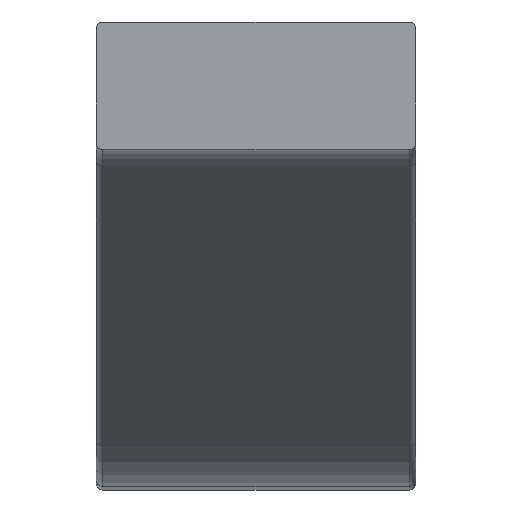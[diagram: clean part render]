
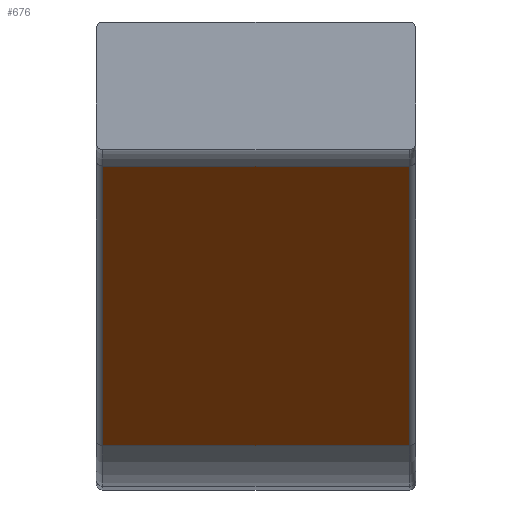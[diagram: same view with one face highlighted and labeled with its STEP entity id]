
A CAD part, left-side view. The second image highlights one B-rep face of the part: STEP entity #676.
In plain terms, the highlighted planar face has unit normal (-0.589, 0, -0.808).
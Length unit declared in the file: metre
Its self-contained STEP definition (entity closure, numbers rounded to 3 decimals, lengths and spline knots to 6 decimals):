
#16=PLANE('',#1031);
#36=LINE('',#1288,#80);
#54=LINE('',#1374,#98);
#71=LINE('',#1436,#115);
#73=LINE('',#1440,#117);
#80=VECTOR('',#1064,1.);
#98=VECTOR('',#1162,1.);
#115=VECTOR('',#1237,1.);
#117=VECTOR('',#1243,1.);
#251=ORIENTED_EDGE('',*,*,#390,.F.);
#252=ORIENTED_EDGE('',*,*,#314,.T.);
#253=ORIENTED_EDGE('',*,*,#392,.T.);
#254=ORIENTED_EDGE('',*,*,#357,.T.);
#314=EDGE_CURVE('',#403,#405,#36,.T.);
#357=EDGE_CURVE('',#427,#433,#54,.T.);
#390=EDGE_CURVE('',#403,#433,#71,.T.);
#392=EDGE_CURVE('',#405,#427,#73,.T.);
#403=VERTEX_POINT('',#1281);
#405=VERTEX_POINT('',#1287);
#427=VERTEX_POINT('',#1355);
#433=VERTEX_POINT('',#1373);
#530=EDGE_LOOP('',(#251,#252,#253,#254));
#572=FACE_BOUND('',#530,.T.);
#676=ADVANCED_FACE('',(#572),#16,.F.);
#1031=AXIS2_PLACEMENT_3D('',#1439,#1241,#1242);
#1064=DIRECTION('',(0.808,0.,-0.589));
#1162=DIRECTION('',(-0.808,0.,0.589));
#1237=DIRECTION('',(0.,-1.,0.));
#1241=DIRECTION('',(0.589,0.,0.808));
#1242=DIRECTION('',(0.808,0.,-0.589));
#1243=DIRECTION('',(0.,-1.,0.));
#1281=CARTESIAN_POINT('',(-0.11808,-0.027222,0.010261));
#1287=CARTESIAN_POINT('',(-0.117179,-0.027222,0.009604));
#1288=CARTESIAN_POINT('',(-0.11808,-0.027222,0.010261));
#1355=CARTESIAN_POINT('',(-0.117179,-0.027942,0.009604));
#1373=CARTESIAN_POINT('',(-0.11808,-0.027942,0.010261));
#1374=CARTESIAN_POINT('',(-0.11808,-0.027942,0.010261));
#1436=CARTESIAN_POINT('',(-0.11808,-0.027957,0.010261));
#1439=CARTESIAN_POINT('',(-0.11808,-0.027957,0.010261));
#1440=CARTESIAN_POINT('',(-0.117179,-0.027957,0.009604));
